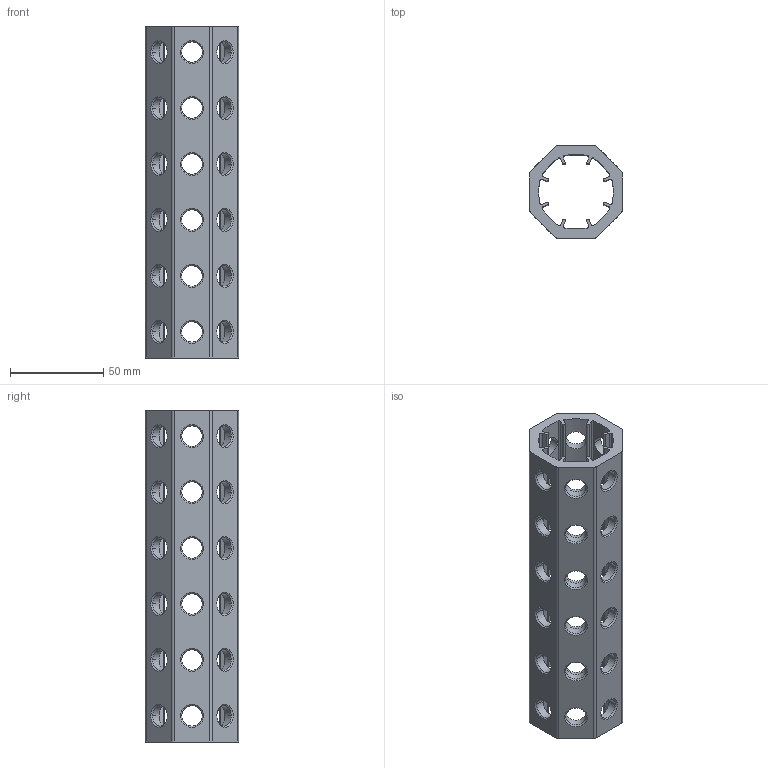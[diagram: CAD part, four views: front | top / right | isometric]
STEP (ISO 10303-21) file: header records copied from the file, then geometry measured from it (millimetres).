
FILE_DESCRIPTION(('CATIA V5 STEP Exchange'),'2;1');
FILE_NAME('U:\Room\唐宝山\EGT002\46-01-010235-01-EGT002-178.stp','2021-08-24T00:56:45+00:00',('none'),('none'),'CATIA Version 5 Release 21 GA (IN-10)','CATIA V5 STEP AP203','none');
FILE_SCHEMA(('CONFIG_CONTROL_DESIGN'));
Length unit declared in the file: millimetre
Products named in the file (1): 46-01-010235-01-EGT002-178
Bounding box: 50 x 50 x 178 mm (x, y, z)
Volume: 126585.7 mm3; surface area: 62670.1 mm2
Topology: 1 solids, 1 shells, 324 faces, 906 edges, 572 vertices
Faces by surface type: cylinder 154, cone 144, plane 26
Entity records: 12774 total; most frequent: CARTESIAN_POINT 4727, ORIENTED_EDGE 1812, DIRECTION 1329, EDGE_CURVE 906, AXIS2_PLACEMENT_3D 624, VERTEX_POINT 572, EDGE_LOOP 410, VECTOR 382
